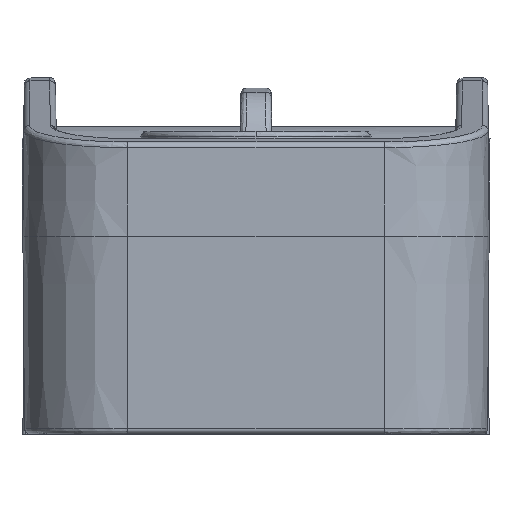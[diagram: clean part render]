
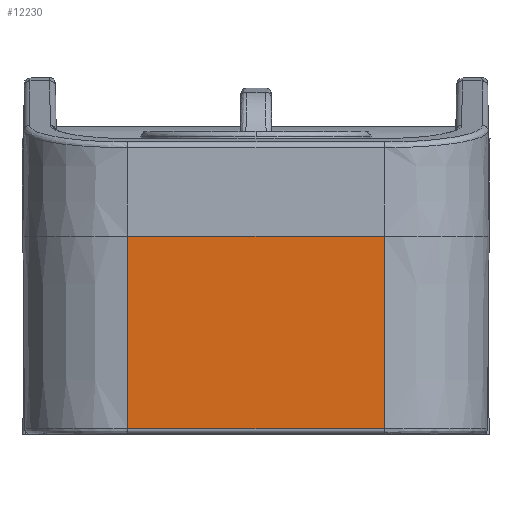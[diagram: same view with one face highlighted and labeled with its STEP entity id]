
A CAD part, front view. The second image highlights one B-rep face of the part: STEP entity #12230.
In plain terms, the highlighted planar face has unit normal (0, -1, -0.009) as drawn and (1, 0, -0.009) by its records, which use the part's own axes.
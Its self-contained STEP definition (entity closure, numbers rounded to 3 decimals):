
#2248 = DIRECTION ( 'NONE',  ( -0.009, 0., -1. ) ) ;
#3030 = CARTESIAN_POINT ( 'NONE',  ( 34.856, 11., -17.304 ) ) ;
#3078 = CARTESIAN_POINT ( 'NONE',  ( 34.856, -11., -17.304 ) ) ;
#3080 = CARTESIAN_POINT ( 'NONE',  ( 35., -11., -0.8 ) ) ;
#3081 = CARTESIAN_POINT ( 'NONE',  ( 35., 11., -0.8 ) ) ;
#4180 = DIRECTION ( 'NONE',  ( -0.009, 0., -1. ) ) ;
#5458 = CARTESIAN_POINT ( 'NONE',  ( 35., -11., -0.8 ) ) ;
#5459 = DIRECTION ( 'NONE',  ( 0.009, 0., 1. ) ) ;
#5510 = CARTESIAN_POINT ( 'NONE',  ( 35., 11., -0.8 ) ) ;
#5511 = DIRECTION ( 'NONE',  ( 0., -1., 0. ) ) ;
#5676 = EDGE_CURVE ( 'NONE', #15935, #15931, #12009, .T. ) ;
#5985 = EDGE_CURVE ( 'NONE', #15929, #15931, #11217, .T. ) ;
#6319 = EDGE_CURVE ( 'NONE', #15929, #15933, #9479, .T. ) ;
#6330 = EDGE_CURVE ( 'NONE', #15935, #15933, #9517, .T. ) ;
#7956 = FACE_OUTER_BOUND ( 'NONE', #11604, .T. ) ;
#8650 = CARTESIAN_POINT ( 'NONE',  ( 35., 11., -0.8 ) ) ;
#9468 = VECTOR ( 'NONE', #5459, 1000. ) ;
#9479 = LINE ( 'NONE', #5458, #9468 ) ;
#9517 = LINE ( 'NONE', #5510, #9520 ) ;
#9520 = VECTOR ( 'NONE', #5511, 1000. ) ;
#10094 = CARTESIAN_POINT ( 'NONE',  ( 34.856, 11., -17.304 ) ) ;
#10102 = DIRECTION ( 'NONE',  ( 0., 1., 0. ) ) ;
#11217 = LINE ( 'NONE', #10094, #11226 ) ;
#11226 = VECTOR ( 'NONE', #10102, 1000. ) ;
#11350 = ORIENTED_EDGE ( 'NONE', *, *, #6330, .T. ) ;
#11474 = ORIENTED_EDGE ( 'NONE', *, *, #5676, .F. ) ;
#11604 = EDGE_LOOP ( 'NONE', ( #11474, #11350, #12432, #12873 ) ) ;
#12009 = LINE ( 'NONE', #8650, #12066 ) ;
#12066 = VECTOR ( 'NONE', #2248, 1000. ) ;
#12230 = ADVANCED_FACE ( 'NONE', ( #7956 ), #16441, .T. ) ;
#12432 = ORIENTED_EDGE ( 'NONE', *, *, #6319, .F. ) ;
#12873 = ORIENTED_EDGE ( 'NONE', *, *, #5985, .T. ) ;
#14001 = AXIS2_PLACEMENT_3D ( 'NONE', #16440, #16450, #4180 ) ;
#15929 = VERTEX_POINT ( 'NONE', #3078 ) ;
#15931 = VERTEX_POINT ( 'NONE', #3030 ) ;
#15933 = VERTEX_POINT ( 'NONE', #3080 ) ;
#15935 = VERTEX_POINT ( 'NONE', #3081 ) ;
#16440 = CARTESIAN_POINT ( 'NONE',  ( 35., 11., -0.8 ) ) ;
#16441 = PLANE ( 'NONE',  #14001 ) ;
#16450 = DIRECTION ( 'NONE',  ( 1., 0., -0.009 ) ) ;
